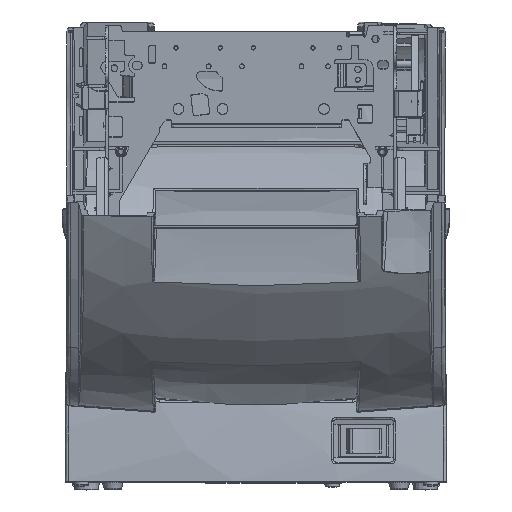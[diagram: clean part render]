
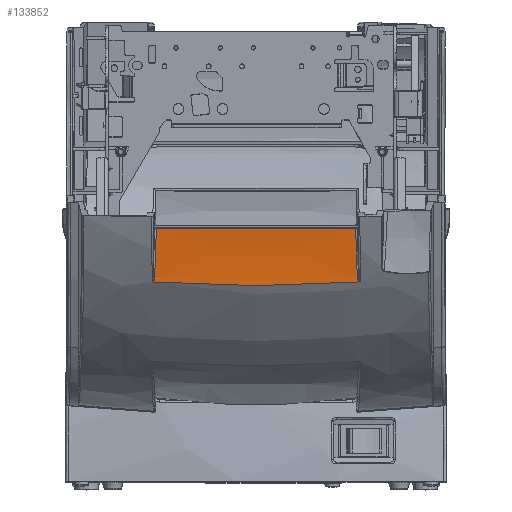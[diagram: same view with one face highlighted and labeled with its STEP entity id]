
A CAD part, top view. The second image highlights one B-rep face of the part: STEP entity #133852.
In plain terms, the highlighted face is a extrusion surface.
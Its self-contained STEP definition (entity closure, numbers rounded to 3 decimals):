
#123829=CARTESIAN_POINT('',(43.36,-3.556,
180.377));
#123830=CARTESIAN_POINT('',(37.855,-3.951,
180.366));
#123831=CARTESIAN_POINT('',(27.303,-4.545,
180.355));
#123832=CARTESIAN_POINT('',(13.912,-5.001,
180.35));
#123833=CARTESIAN_POINT('',(-0.194,-5.174,
180.348));
#123834=CARTESIAN_POINT('',(-14.171,-4.993,
180.35));
#123835=CARTESIAN_POINT('',(-27.366,-4.541,
180.355));
#123836=CARTESIAN_POINT('',(-37.728,-3.958,
180.366));
#123837=CARTESIAN_POINT('',(-43.125,-3.573,
180.376));
#127238=DIRECTION('',(1.,0.,0.));
#127239=VECTOR('',#127238,83.482);
#127240=CARTESIAN_POINT('',(-41.741,18.81,
182.66));
#127241=LINE('',#127240,#127239);
#128176=CARTESIAN_POINT('',(-43.125,-3.573,
180.376));
#128210=CARTESIAN_POINT('',(-43.125,-3.573,
180.376));
#128211=CARTESIAN_POINT('',(-43.109,-3.562,
180.377));
#128212=CARTESIAN_POINT('',(-43.078,-3.538,
180.377));
#128213=CARTESIAN_POINT('',(-43.032,-3.498,
180.378));
#128214=CARTESIAN_POINT('',(-42.985,-3.452,
180.38));
#128215=CARTESIAN_POINT('',(-42.939,-3.399,
180.381));
#128216=CARTESIAN_POINT('',(-42.892,-3.34,
180.383));
#128217=CARTESIAN_POINT('',(-42.846,-3.274,
180.385));
#128218=CARTESIAN_POINT('',(-42.8,-3.2,
180.387));
#128219=CARTESIAN_POINT('',(-42.754,-3.116,
180.389));
#128220=CARTESIAN_POINT('',(-42.708,-3.023,
180.392));
#128221=CARTESIAN_POINT('',(-42.663,-2.916,
180.396));
#128222=CARTESIAN_POINT('',(-42.619,-2.795,
180.4));
#128223=CARTESIAN_POINT('',(-42.576,-2.658,
180.404));
#128224=CARTESIAN_POINT('',(-42.538,-2.507,
180.41));
#128225=CARTESIAN_POINT('',(-42.504,-2.343,
180.416));
#128226=CARTESIAN_POINT('',(-42.477,-2.168,
180.423));
#128227=CARTESIAN_POINT('',(-42.457,-1.984,
180.43));
#128228=CARTESIAN_POINT('',(-42.449,-1.853,
180.436));
#128229=CARTESIAN_POINT('',(-42.446,-1.787,
180.438));
#128231=CARTESIAN_POINT('',(-42.446,-1.787,
180.438));
#128232=CARTESIAN_POINT('',(-42.419,-1.073,
180.469));
#128233=CARTESIAN_POINT('',(-42.36,0.452,
180.549));
#128234=CARTESIAN_POINT('',(-42.263,3.07,
180.735));
#128235=CARTESIAN_POINT('',(-42.161,5.88,
180.989));
#128236=CARTESIAN_POINT('',(-42.074,8.358,
181.251));
#128237=CARTESIAN_POINT('',(-41.999,10.574,
181.511));
#128238=CARTESIAN_POINT('',(-41.933,12.562,
181.764));
#128239=CARTESIAN_POINT('',(-41.875,14.358,
182.006));
#128240=CARTESIAN_POINT('',(-41.825,15.987,
182.237));
#128241=CARTESIAN_POINT('',(-41.78,17.471,
182.455));
#128242=CARTESIAN_POINT('',(-41.753,18.378,
182.593));
#128243=CARTESIAN_POINT('',(-41.741,18.81,
182.66));
#128279=CARTESIAN_POINT('',(43.36,-3.556,
180.377));
#128281=CARTESIAN_POINT('',(43.36,-3.556,
180.377));
#128282=CARTESIAN_POINT('',(43.341,-3.545,
180.377));
#128283=CARTESIAN_POINT('',(43.303,-3.52,
180.378));
#128284=CARTESIAN_POINT('',(43.244,-3.477,
180.379));
#128285=CARTESIAN_POINT('',(43.184,-3.426,
180.38));
#128286=CARTESIAN_POINT('',(43.124,-3.367,
180.382));
#128287=CARTESIAN_POINT('',(43.063,-3.3,
180.384));
#128288=CARTESIAN_POINT('',(43.001,-3.223,
180.386));
#128289=CARTESIAN_POINT('',(42.94,-3.137,
180.389));
#128290=CARTESIAN_POINT('',(42.878,-3.039,
180.392));
#128291=CARTESIAN_POINT('',(42.816,-2.928,
180.395));
#128292=CARTESIAN_POINT('',(42.754,-2.801,
180.399));
#128293=CARTESIAN_POINT('',(42.693,-2.658,
180.404));
#128294=CARTESIAN_POINT('',(42.636,-2.501,
180.41));
#128295=CARTESIAN_POINT('',(42.583,-2.328,
180.416));
#128296=CARTESIAN_POINT('',(42.535,-2.14,
180.424));
#128297=CARTESIAN_POINT('',(42.494,-1.938,
180.432));
#128298=CARTESIAN_POINT('',(42.461,-1.723,
180.441));
#128299=CARTESIAN_POINT('',(42.436,-1.498,
180.451));
#128300=CARTESIAN_POINT('',(42.427,-1.341,
180.459));
#128301=CARTESIAN_POINT('',(42.424,-1.262,
180.462));
#128351=CARTESIAN_POINT('',(42.424,-1.262,
180.462));
#128352=CARTESIAN_POINT('',(42.396,-0.529,
180.497));
#128353=CARTESIAN_POINT('',(42.337,1.016,
180.585));
#128354=CARTESIAN_POINT('',(42.238,3.695,
180.788));
#128355=CARTESIAN_POINT('',(42.142,6.366,
181.038));
#128356=CARTESIAN_POINT('',(42.06,8.75,
181.296));
#128357=CARTESIAN_POINT('',(41.988,10.869,
181.548));
#128358=CARTESIAN_POINT('',(41.926,12.779,
181.793));
#128359=CARTESIAN_POINT('',(41.87,14.509,
182.027));
#128360=CARTESIAN_POINT('',(41.822,16.081,
182.251));
#128361=CARTESIAN_POINT('',(41.779,17.514,
182.462));
#128362=CARTESIAN_POINT('',(41.753,18.391,
182.596));
#128363=CARTESIAN_POINT('',(41.741,18.81,
182.66));
#132562=VERTEX_POINT('',#128176);
#132565=VERTEX_POINT('',#128279);
#132608=CARTESIAN_POINT('',(-41.741,18.81,
182.66));
#132609=CARTESIAN_POINT('',(41.741,18.81,
182.66));
#132610=VERTEX_POINT('',#132608);
#132611=VERTEX_POINT('',#132609);
#132868=VERTEX_POINT('',#128231);
#132873=VERTEX_POINT('',#128351);
#133827=CARTESIAN_POINT('',(74.3,-5.354,180.347));
#133828=CARTESIAN_POINT('',(74.3,-3.314,180.36));
#133829=CARTESIAN_POINT('',(74.3,0.76,180.53));
#133830=CARTESIAN_POINT('',(74.3,6.862,181.062));
#133831=CARTESIAN_POINT('',(74.3,12.957,181.793));
#133832=CARTESIAN_POINT('',(74.3,17.018,182.382));
#133833=CARTESIAN_POINT('',(74.3,19.047,182.697));
#133835=DIRECTION('',(1.,0.,0.));
#133836=VECTOR('',#133835,1.);
#133837=SURFACE_OF_LINEAR_EXTRUSION('',#133834,#133836);
#133839=ORIENTED_EDGE('',*,*,#133838,.T.);
#133841=ORIENTED_EDGE('',*,*,#133840,.F.);
#133843=ORIENTED_EDGE('',*,*,#133842,.F.);
#133845=ORIENTED_EDGE('',*,*,#133844,.T.);
#133847=ORIENTED_EDGE('',*,*,#133846,.T.);
#133849=ORIENTED_EDGE('',*,*,#133848,.T.);
#133850=EDGE_LOOP('',(#133839,#133841,#133843,#133845,#133847,#133849));
#133851=FACE_OUTER_BOUND('',#133850,.F.);
#123838=B_SPLINE_CURVE_WITH_KNOTS('',3,(#123829,#123830,#123831,#123832,#123833,
#123834,#123835,#123836,#123837),.UNSPECIFIED.,.F.,.F.,(4,1,1,1,1,1,4),(0.,
0.167,0.333,0.5,0.667,0.833,
1.),.UNSPECIFIED.);
#128230=B_SPLINE_CURVE_WITH_KNOTS('',3,(#128210,#128211,#128212,#128213,#128214,
#128215,#128216,#128217,#128218,#128219,#128220,#128221,#128222,#128223,#128224,
#128225,#128226,#128227,#128228,#128229),.UNSPECIFIED.,.F.,.F.,(4,1,1,1,1,1,1,1,
1,1,1,1,1,1,1,1,1,4),(0.,0.059,0.118,
0.176,0.235,0.294,0.353,
0.412,0.471,0.529,0.588,
0.647,0.706,0.765,0.824,
0.882,0.941,1.),.UNSPECIFIED.);
#128244=B_SPLINE_CURVE_WITH_KNOTS('',3,(#128231,#128232,#128233,#128234,#128235,
#128236,#128237,#128238,#128239,#128240,#128241,#128242,#128243),.UNSPECIFIED.,
.F.,.F.,(4,1,1,1,1,1,1,1,1,1,4),(0.,0.1,0.2,0.3,0.4,0.5,0.6,0.7,
0.8,0.9,1.),.UNSPECIFIED.);
#128302=B_SPLINE_CURVE_WITH_KNOTS('',3,(#128281,#128282,#128283,#128284,#128285,
#128286,#128287,#128288,#128289,#128290,#128291,#128292,#128293,#128294,#128295,
#128296,#128297,#128298,#128299,#128300,#128301),.UNSPECIFIED.,.F.,.F.,(4,1,1,1,
1,1,1,1,1,1,1,1,1,1,1,1,1,1,4),(0.,0.056,0.111,
0.167,0.222,0.278,0.333,
0.389,0.444,0.5,0.556,0.611,
0.667,0.722,0.778,0.833,
0.889,0.944,1.),.UNSPECIFIED.);
#128364=B_SPLINE_CURVE_WITH_KNOTS('',3,(#128351,#128352,#128353,#128354,#128355,
#128356,#128357,#128358,#128359,#128360,#128361,#128362,#128363),.UNSPECIFIED.,
.F.,.F.,(4,1,1,1,1,1,1,1,1,1,4),(0.,0.1,0.2,0.3,0.4,0.5,0.6,0.7,
0.8,0.9,1.),.UNSPECIFIED.);
#133834=B_SPLINE_CURVE_WITH_KNOTS('',3,(#133827,#133828,#133829,#133830,#133831,
#133832,#133833),.UNSPECIFIED.,.F.,.F.,(4,1,1,1,4),(0.,0.25,0.5,0.75,
1.),.UNSPECIFIED.);
#133838=EDGE_CURVE('',#132610,#132611,#127241,.T.);
#133840=EDGE_CURVE('',#132873,#132611,#128364,.T.);
#133842=EDGE_CURVE('',#132565,#132873,#128302,.T.);
#133844=EDGE_CURVE('',#132565,#132562,#123838,.T.);
#133846=EDGE_CURVE('',#132562,#132868,#128230,.T.);
#133848=EDGE_CURVE('',#132868,#132610,#128244,.T.);
#133852=ADVANCED_FACE('',(#133851),#133837,.F.);
